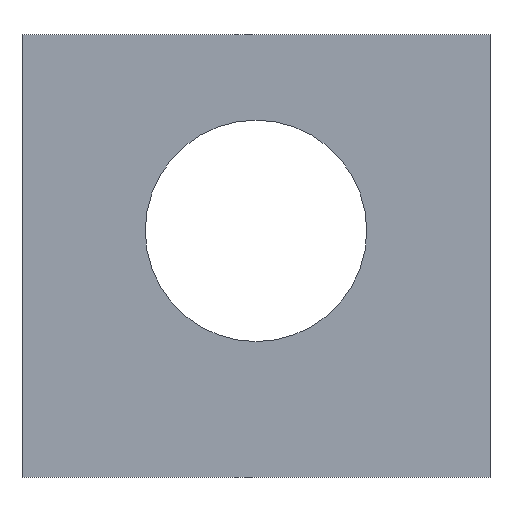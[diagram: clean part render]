
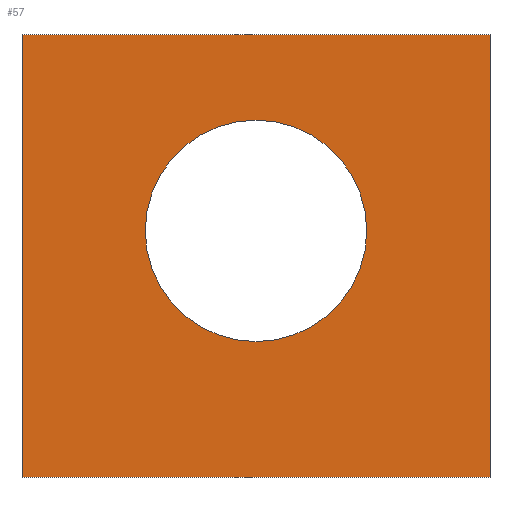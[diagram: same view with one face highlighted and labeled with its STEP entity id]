
A CAD part, front view. The second image highlights one B-rep face of the part: STEP entity #57.
In plain terms, the highlighted planar face has unit normal (0, -1, 0).
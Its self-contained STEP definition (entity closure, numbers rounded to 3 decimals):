
#21 = EDGE_CURVE('',#22,#24,#26,.T.);
#22 = VERTEX_POINT('',#23);
#23 = CARTESIAN_POINT('',(39.2,82.5,10.2));
#24 = VERTEX_POINT('',#25);
#25 = CARTESIAN_POINT('',(39.2,82.5,27.8));
#26 = LINE('',#27,#28);
#27 = CARTESIAN_POINT('',(39.2,82.5,10.2));
#28 = VECTOR('',#29,1.);
#29 = DIRECTION('',(0.,0.,1.));
#57 = ADVANCED_FACE('',(#58,#83),#94,.F.);
#58 = FACE_BOUND('',#59,.F.);
#59 = EDGE_LOOP('',(#60,#68,#69,#77));
#60 = ORIENTED_EDGE('',*,*,#61,.F.);
#61 = EDGE_CURVE('',#22,#62,#64,.T.);
#62 = VERTEX_POINT('',#63);
#63 = CARTESIAN_POINT('',(57.8,82.5,10.2));
#64 = LINE('',#65,#66);
#65 = CARTESIAN_POINT('',(39.2,82.5,10.2));
#66 = VECTOR('',#67,1.);
#67 = DIRECTION('',(1.,0.,-0.));
#68 = ORIENTED_EDGE('',*,*,#21,.T.);
#69 = ORIENTED_EDGE('',*,*,#70,.T.);
#70 = EDGE_CURVE('',#24,#71,#73,.T.);
#71 = VERTEX_POINT('',#72);
#72 = CARTESIAN_POINT('',(57.8,82.5,27.8));
#73 = LINE('',#74,#75);
#74 = CARTESIAN_POINT('',(39.2,82.5,27.8));
#75 = VECTOR('',#76,1.);
#76 = DIRECTION('',(1.,0.,-0.));
#77 = ORIENTED_EDGE('',*,*,#78,.F.);
#78 = EDGE_CURVE('',#62,#71,#79,.T.);
#79 = LINE('',#80,#81);
#80 = CARTESIAN_POINT('',(57.8,82.5,10.2));
#81 = VECTOR('',#82,1.);
#82 = DIRECTION('',(0.,0.,1.));
#83 = FACE_BOUND('',#84,.F.);
#84 = EDGE_LOOP('',(#85));
#85 = ORIENTED_EDGE('',*,*,#86,.F.);
#86 = EDGE_CURVE('',#87,#87,#89,.T.);
#87 = VERTEX_POINT('',#88);
#88 = CARTESIAN_POINT('',(48.5,82.5,24.4));
#89 = CIRCLE('',#90,4.4);
#90 = AXIS2_PLACEMENT_3D('',#91,#92,#93);
#91 = CARTESIAN_POINT('',(48.5,82.5,20.));
#92 = DIRECTION('',(0.,1.,0.));
#93 = DIRECTION('',(0.,-0.,1.));
#94 = PLANE('',#95);
#95 = AXIS2_PLACEMENT_3D('',#96,#97,#98);
#96 = CARTESIAN_POINT('',(39.2,82.5,10.2));
#97 = DIRECTION('',(-0.,1.,0.));
#98 = DIRECTION('',(0.,0.,1.));
